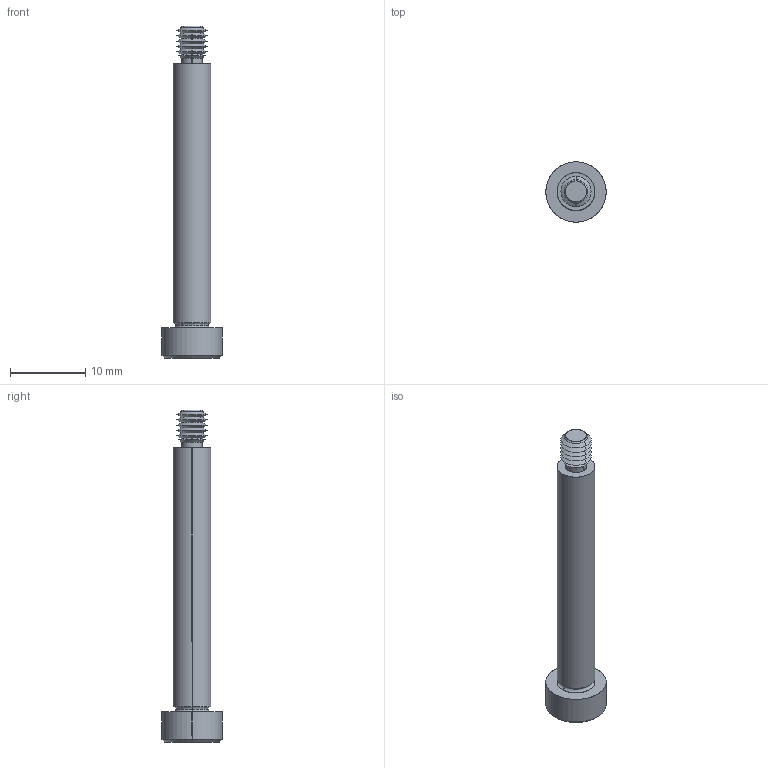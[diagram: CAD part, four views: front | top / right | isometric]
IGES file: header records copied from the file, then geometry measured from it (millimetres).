
Start section: SolidWorks IGES file using analytic representation for surfaces
Global section: file name: C:\Users\IanO\Documents\Temp Folder\GENERAL\SCREW REVISION\P0130_v2\P0130.T5_v2_20220106_IGES\P0130.050-035-T5.igs; native system: SolidWorks 2019; preprocessor: SolidWorks 2019; author: IanO; date: 220106.221800; units: millimetre
Bounding box: 8 x 8 x 44 mm (x, y, z)
Surface area: 865.8 mm2 (no closed solid volume)
Topology: 0 solids, 0 shells, 64 faces, 504 edges, 502 vertices
Faces by surface type: revolution 44, bspline 20
